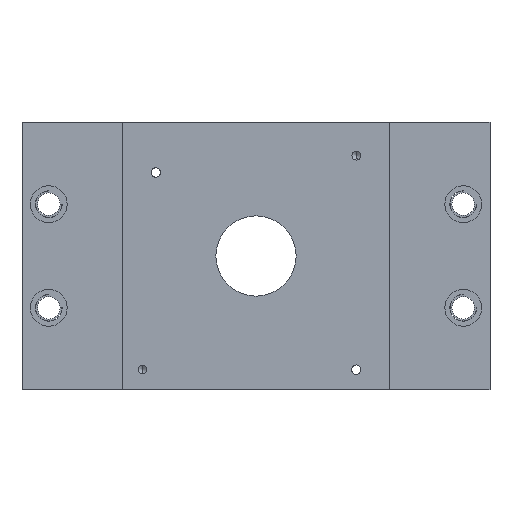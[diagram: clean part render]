
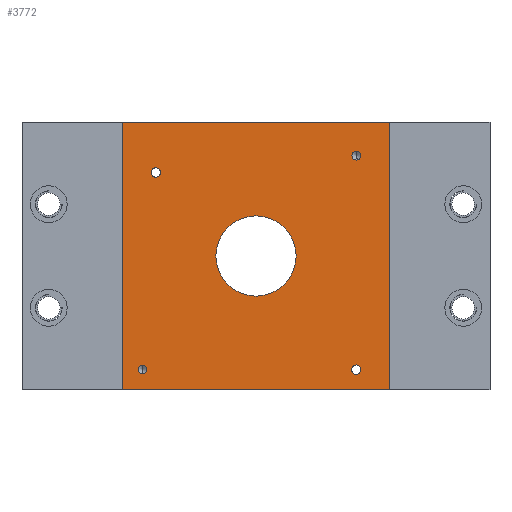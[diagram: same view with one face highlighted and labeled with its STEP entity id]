
A CAD part, left-side view. The second image highlights one B-rep face of the part: STEP entity #3772.
In plain terms, the highlighted planar face has unit normal (-1, 0, 0).
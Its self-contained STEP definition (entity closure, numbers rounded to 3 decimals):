
#21 = DIRECTION ( 'NONE',  ( -1., 0., 0. ) ) ;
#58 = EDGE_CURVE ( 'NONE', #176, #2726, #2981, .T. ) ;
#61 = CIRCLE ( 'NONE', #1379, 12. ) ;
#101 = LINE ( 'NONE', #4786, #4393 ) ;
#107 = CARTESIAN_POINT ( 'NONE',  ( -20.841, 40., -40. ) ) ;
#117 = ORIENTED_EDGE ( 'NONE', *, *, #4034, .T. ) ;
#120 = CARTESIAN_POINT ( 'NONE',  ( -20.841, -30., -35.397 ) ) ;
#128 = DIRECTION ( 'NONE',  ( 0., 0., 1. ) ) ;
#176 = VERTEX_POINT ( 'NONE', #120 ) ;
#214 = EDGE_CURVE ( 'NONE', #4184, #4648, #2947, .T. ) ;
#216 = DIRECTION ( 'NONE',  ( 0., 1., 0. ) ) ;
#219 = AXIS2_PLACEMENT_3D ( 'NONE', #776, #2357, #3635 ) ;
#260 = VECTOR ( 'NONE', #2353, 1000. ) ;
#284 = EDGE_CURVE ( 'NONE', #2696, #3775, #3849, .T. ) ;
#400 = EDGE_LOOP ( 'NONE', ( #3288, #4008 ) ) ;
#414 = DIRECTION ( 'NONE',  ( 0., 0., 1. ) ) ;
#524 = VERTEX_POINT ( 'NONE', #805 ) ;
#610 = ORIENTED_EDGE ( 'NONE', *, *, #1624, .T. ) ;
#623 = EDGE_LOOP ( 'NONE', ( #4165, #4785 ) ) ;
#691 = DIRECTION ( 'NONE',  ( 0., -1., 0. ) ) ;
#776 = CARTESIAN_POINT ( 'NONE',  ( -20.841, -30., 30. ) ) ;
#805 = CARTESIAN_POINT ( 'NONE',  ( -20.841, 30., 23.603 ) ) ;
#819 = DIRECTION ( 'NONE',  ( -1., 0., 0. ) ) ;
#831 = AXIS2_PLACEMENT_3D ( 'NONE', #1996, #4773, #414 ) ;
#929 = CARTESIAN_POINT ( 'NONE',  ( -20.841, -30., 30. ) ) ;
#972 = CIRCLE ( 'NONE', #3941, 1.289 ) ;
#978 = VERTEX_POINT ( 'NONE', #3489 ) ;
#1042 = FACE_BOUND ( 'NONE', #2725, .T. ) ;
#1112 = AXIS2_PLACEMENT_3D ( 'NONE', #3610, #2025, #1640 ) ;
#1126 = CARTESIAN_POINT ( 'NONE',  ( -20.841, -40., -40. ) ) ;
#1152 = CARTESIAN_POINT ( 'NONE',  ( -20.841, 30., 25. ) ) ;
#1207 = ORIENTED_EDGE ( 'NONE', *, *, #214, .F. ) ;
#1235 = EDGE_CURVE ( 'NONE', #4600, #524, #2335, .T. ) ;
#1349 = DIRECTION ( 'NONE',  ( 0., 0., 1. ) ) ;
#1379 = AXIS2_PLACEMENT_3D ( 'NONE', #1828, #3097, #3873 ) ;
#1449 = FACE_OUTER_BOUND ( 'NONE', #3863, .T. ) ;
#1467 = VERTEX_POINT ( 'NONE', #107 ) ;
#1497 = FACE_BOUND ( 'NONE', #400, .T. ) ;
#1510 = CIRCLE ( 'NONE', #3760, 1.289 ) ;
#1575 = LINE ( 'NONE', #3935, #260 ) ;
#1577 = CARTESIAN_POINT ( 'NONE',  ( -20.841, -12., 0. ) ) ;
#1624 = EDGE_CURVE ( 'NONE', #1467, #1827, #2613, .T. ) ;
#1640 = DIRECTION ( 'NONE',  ( 0., 0., 1. ) ) ;
#1713 = LINE ( 'NONE', #2127, #3757 ) ;
#1737 = CARTESIAN_POINT ( 'NONE',  ( -20.841, 30., 25. ) ) ;
#1827 = VERTEX_POINT ( 'NONE', #1126 ) ;
#1828 = CARTESIAN_POINT ( 'NONE',  ( -20.841, 0., 0. ) ) ;
#1861 = VERTEX_POINT ( 'NONE', #4180 ) ;
#1871 = ORIENTED_EDGE ( 'NONE', *, *, #284, .F. ) ;
#1996 = CARTESIAN_POINT ( 'NONE',  ( -20.841, -30., -34. ) ) ;
#2005 = CIRCLE ( 'NONE', #2660, 1.397 ) ;
#2025 = DIRECTION ( 'NONE',  ( -1., 0., 0. ) ) ;
#2108 = CARTESIAN_POINT ( 'NONE',  ( -20.841, -30., 28.711 ) ) ;
#2127 = CARTESIAN_POINT ( 'NONE',  ( -20.841, 40., 40. ) ) ;
#2183 = EDGE_CURVE ( 'NONE', #2726, #176, #3070, .T. ) ;
#2299 = FACE_BOUND ( 'NONE', #3096, .T. ) ;
#2314 = EDGE_CURVE ( 'NONE', #1861, #1467, #101, .T. ) ;
#2335 = CIRCLE ( 'NONE', #4321, 1.397 ) ;
#2353 = DIRECTION ( 'NONE',  ( 0., 0., 1. ) ) ;
#2357 = DIRECTION ( 'NONE',  ( -1., 0., 0. ) ) ;
#2361 = CARTESIAN_POINT ( 'NONE',  ( -20.841, -40., 40. ) ) ;
#2390 = CARTESIAN_POINT ( 'NONE',  ( -20.841, 30., 26.397 ) ) ;
#2401 = DIRECTION ( 'NONE',  ( 0., 0., 1. ) ) ;
#2476 = EDGE_LOOP ( 'NONE', ( #3563, #4626 ) ) ;
#2507 = DIRECTION ( 'NONE',  ( -1., 0., 0. ) ) ;
#2576 = EDGE_CURVE ( 'NONE', #4648, #4184, #972, .T. ) ;
#2613 = LINE ( 'NONE', #2635, #4080 ) ;
#2620 = PLANE ( 'NONE',  #3667 ) ;
#2635 = CARTESIAN_POINT ( 'NONE',  ( -20.841, 40., -40. ) ) ;
#2660 = AXIS2_PLACEMENT_3D ( 'NONE', #1737, #3325, #1349 ) ;
#2679 = EDGE_CURVE ( 'NONE', #3239, #978, #61, .T. ) ;
#2696 = VERTEX_POINT ( 'NONE', #4215 ) ;
#2716 = DIRECTION ( 'NONE',  ( 0., 0., 1. ) ) ;
#2725 = EDGE_LOOP ( 'NONE', ( #1871, #3723 ) ) ;
#2726 = VERTEX_POINT ( 'NONE', #2782 ) ;
#2782 = CARTESIAN_POINT ( 'NONE',  ( -20.841, -30., -32.603 ) ) ;
#2947 = CIRCLE ( 'NONE', #219, 1.289 ) ;
#2981 = CIRCLE ( 'NONE', #3393, 1.397 ) ;
#3041 = FACE_BOUND ( 'NONE', #623, .T. ) ;
#3063 = CARTESIAN_POINT ( 'NONE',  ( -20.841, -40., -40. ) ) ;
#3070 = CIRCLE ( 'NONE', #831, 1.397 ) ;
#3096 = EDGE_LOOP ( 'NONE', ( #1207, #3695 ) ) ;
#3097 = DIRECTION ( 'NONE',  ( 1., 0., 0. ) ) ;
#3210 = ORIENTED_EDGE ( 'NONE', *, *, #4988, .T. ) ;
#3237 = ORIENTED_EDGE ( 'NONE', *, *, #2314, .T. ) ;
#3239 = VERTEX_POINT ( 'NONE', #1577 ) ;
#3288 = ORIENTED_EDGE ( 'NONE', *, *, #2183, .F. ) ;
#3306 = DIRECTION ( 'NONE',  ( 0., 0., 1. ) ) ;
#3325 = DIRECTION ( 'NONE',  ( -1., 0., 0. ) ) ;
#3354 = DIRECTION ( 'NONE',  ( 1., 0., 0. ) ) ;
#3385 = AXIS2_PLACEMENT_3D ( 'NONE', #4884, #3354, #3306 ) ;
#3393 = AXIS2_PLACEMENT_3D ( 'NONE', #5012, #4252, #2716 ) ;
#3465 = CARTESIAN_POINT ( 'NONE',  ( -20.841, -30., 31.289 ) ) ;
#3489 = CARTESIAN_POINT ( 'NONE',  ( -20.841, 12., 0. ) ) ;
#3491 = FACE_BOUND ( 'NONE', #2476, .T. ) ;
#3535 = CIRCLE ( 'NONE', #3385, 12. ) ;
#3563 = ORIENTED_EDGE ( 'NONE', *, *, #1235, .F. ) ;
#3587 = EDGE_CURVE ( 'NONE', #978, #3239, #3535, .T. ) ;
#3610 = CARTESIAN_POINT ( 'NONE',  ( -20.841, 34., -34. ) ) ;
#3635 = DIRECTION ( 'NONE',  ( 0., 0., 1. ) ) ;
#3667 = AXIS2_PLACEMENT_3D ( 'NONE', #3063, #4639, #691 ) ;
#3695 = ORIENTED_EDGE ( 'NONE', *, *, #2576, .F. ) ;
#3723 = ORIENTED_EDGE ( 'NONE', *, *, #4194, .F. ) ;
#3757 = VECTOR ( 'NONE', #216, 1000. ) ;
#3760 = AXIS2_PLACEMENT_3D ( 'NONE', #4818, #21, #4702 ) ;
#3772 = ADVANCED_FACE ( 'NONE', ( #1449, #3041, #1497, #2299, #3491, #1042 ), #2620, .T. ) ;
#3775 = VERTEX_POINT ( 'NONE', #4203 ) ;
#3849 = CIRCLE ( 'NONE', #1112, 1.289 ) ;
#3863 = EDGE_LOOP ( 'NONE', ( #117, #3237, #610, #3210 ) ) ;
#3873 = DIRECTION ( 'NONE',  ( 0., 0., 1. ) ) ;
#3935 = CARTESIAN_POINT ( 'NONE',  ( -20.841, -40., -40. ) ) ;
#3941 = AXIS2_PLACEMENT_3D ( 'NONE', #929, #2507, #128 ) ;
#4008 = ORIENTED_EDGE ( 'NONE', *, *, #58, .F. ) ;
#4034 = EDGE_CURVE ( 'NONE', #4467, #1861, #1713, .T. ) ;
#4043 = EDGE_CURVE ( 'NONE', #524, #4600, #2005, .T. ) ;
#4080 = VECTOR ( 'NONE', #5042, 1000. ) ;
#4165 = ORIENTED_EDGE ( 'NONE', *, *, #3587, .T. ) ;
#4180 = CARTESIAN_POINT ( 'NONE',  ( -20.841, 40., 40. ) ) ;
#4184 = VERTEX_POINT ( 'NONE', #3465 ) ;
#4194 = EDGE_CURVE ( 'NONE', #3775, #2696, #1510, .T. ) ;
#4203 = CARTESIAN_POINT ( 'NONE',  ( -20.841, 34., -35.289 ) ) ;
#4215 = CARTESIAN_POINT ( 'NONE',  ( -20.841, 34., -32.711 ) ) ;
#4252 = DIRECTION ( 'NONE',  ( -1., 0., 0. ) ) ;
#4321 = AXIS2_PLACEMENT_3D ( 'NONE', #1152, #819, #2401 ) ;
#4393 = VECTOR ( 'NONE', #4398, 1000. ) ;
#4398 = DIRECTION ( 'NONE',  ( 0., 0., -1. ) ) ;
#4467 = VERTEX_POINT ( 'NONE', #2361 ) ;
#4600 = VERTEX_POINT ( 'NONE', #2390 ) ;
#4626 = ORIENTED_EDGE ( 'NONE', *, *, #4043, .F. ) ;
#4639 = DIRECTION ( 'NONE',  ( -1., 0., 0. ) ) ;
#4648 = VERTEX_POINT ( 'NONE', #2108 ) ;
#4702 = DIRECTION ( 'NONE',  ( 0., 0., 1. ) ) ;
#4773 = DIRECTION ( 'NONE',  ( -1., 0., 0. ) ) ;
#4785 = ORIENTED_EDGE ( 'NONE', *, *, #2679, .T. ) ;
#4786 = CARTESIAN_POINT ( 'NONE',  ( -20.841, 40., -40. ) ) ;
#4818 = CARTESIAN_POINT ( 'NONE',  ( -20.841, 34., -34. ) ) ;
#4884 = CARTESIAN_POINT ( 'NONE',  ( -20.841, 0., 0. ) ) ;
#4988 = EDGE_CURVE ( 'NONE', #1827, #4467, #1575, .T. ) ;
#5012 = CARTESIAN_POINT ( 'NONE',  ( -20.841, -30., -34. ) ) ;
#5042 = DIRECTION ( 'NONE',  ( 0., -1., 0. ) ) ;
